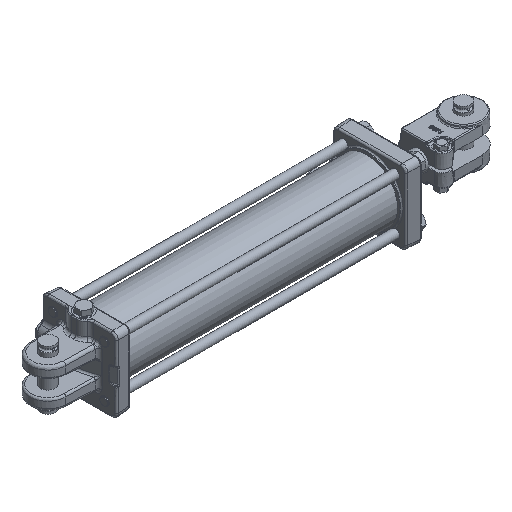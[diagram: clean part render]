
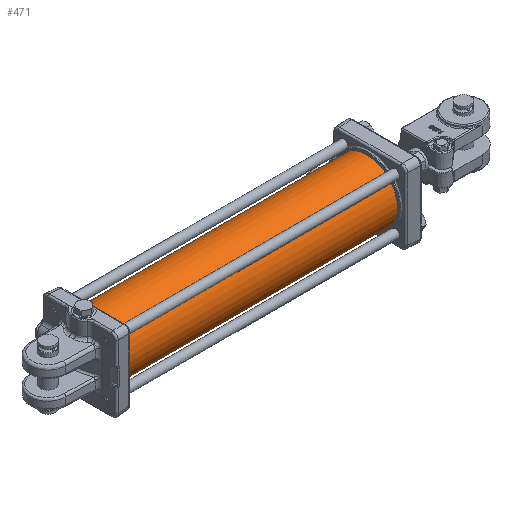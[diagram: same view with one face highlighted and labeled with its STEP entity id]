
A CAD part, isometric view. The second image highlights one B-rep face of the part: STEP entity #471.
In plain terms, the highlighted cylindrical face has radius 52.388 mm (diameter 104.775 mm), a full revolution.
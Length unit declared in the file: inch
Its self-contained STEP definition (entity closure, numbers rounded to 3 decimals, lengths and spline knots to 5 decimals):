
#210=CARTESIAN_POINT('',(-0.967,2.06178,0.0545));
#211=VERTEX_POINT('',#210);
#212=CARTESIAN_POINT('',(-0.967,2.06178,0.0545));
#213=CARTESIAN_POINT('',(-0.97384,2.06178,0.0545));
#214=CARTESIAN_POINT('',(-0.98114,2.06182,0.05313));
#215=CARTESIAN_POINT('',(-0.99457,2.06195,0.04757));
#216=CARTESIAN_POINT('',(-1.0007,2.06205,0.04338));
#217=CARTESIAN_POINT('',(-1.01038,2.06223,0.0337));
#218=CARTESIAN_POINT('',(-1.01457,2.06233,0.02757));
#219=CARTESIAN_POINT('',(-1.02013,2.06246,0.01414));
#220=CARTESIAN_POINT('',(-1.0215,2.0625,0.00684));
#221=CARTESIAN_POINT('',(-1.0215,2.0625,-0.00684));
#222=CARTESIAN_POINT('',(-1.02013,2.06246,-0.01414));
#223=CARTESIAN_POINT('',(-1.01457,2.06233,-0.02757));
#224=CARTESIAN_POINT('',(-1.01038,2.06223,-0.0337));
#225=CARTESIAN_POINT('',(-1.0007,2.06205,-0.04338));
#226=CARTESIAN_POINT('',(-0.99457,2.06195,-0.04757));
#227=CARTESIAN_POINT('',(-0.98114,2.06182,-0.05313));
#228=CARTESIAN_POINT('',(-0.97384,2.06178,-0.0545));
#229=CARTESIAN_POINT('',(-0.96016,2.06178,-0.0545));
#230=CARTESIAN_POINT('',(-0.95286,2.06182,-0.05313));
#231=CARTESIAN_POINT('',(-0.93943,2.06195,-0.04757));
#232=CARTESIAN_POINT('',(-0.9333,2.06205,-0.04338));
#233=CARTESIAN_POINT('',(-0.92362,2.06223,-0.0337));
#234=CARTESIAN_POINT('',(-0.91943,2.06233,-0.02757));
#235=CARTESIAN_POINT('',(-0.91387,2.06246,-0.01414));
#236=CARTESIAN_POINT('',(-0.9125,2.0625,-0.00684));
#237=CARTESIAN_POINT('',(-0.9125,2.0625,0.00684));
#238=CARTESIAN_POINT('',(-0.91387,2.06246,0.01414));
#239=CARTESIAN_POINT('',(-0.91943,2.06233,0.02757));
#240=CARTESIAN_POINT('',(-0.92362,2.06223,0.0337));
#241=CARTESIAN_POINT('',(-0.9333,2.06205,0.04338));
#242=CARTESIAN_POINT('',(-0.93943,2.06195,0.04757));
#243=CARTESIAN_POINT('',(-0.95286,2.06182,0.05313));
#244=CARTESIAN_POINT('',(-0.96016,2.06178,0.0545));
#245=CARTESIAN_POINT('',(-0.967,2.06178,0.0545));
#246=B_SPLINE_CURVE_WITH_KNOTS('',3,(#212,#213,#214,#215,#216,#217,#218,#219,#220,#221,#222,#223,#224,#225,#226,#227,#228,#229,#230,#231,#232,#233,#234,#235,#236,#237,#238,#239,#240,#241,#242,#243,#244,#245),.UNSPECIFIED.,.T.,.U.,(4,2,2,2,2,2,2,2,2,2,2,2,2,2,2,2,4),(0.0,0.05215,0.10429,0.15644,0.20859,0.26074,0.31288,0.36503,0.41718,0.46933,0.52147,0.57362,0.62577,0.67792,0.73006,0.78221,0.83436),.UNSPECIFIED.);
#247=EDGE_CURVE('',#211,#211,#246,.T.);
#298=CARTESIAN_POINT('',(-1.347,2.06227,0.031));
#299=VERTEX_POINT('',#298);
#300=CARTESIAN_POINT('',(-1.347,2.06227,0.031));
#301=CARTESIAN_POINT('',(-1.35089,2.06227,0.031));
#302=CARTESIAN_POINT('',(-1.35504,2.06228,0.03022));
#303=CARTESIAN_POINT('',(-1.36268,2.06232,0.02706));
#304=CARTESIAN_POINT('',(-1.36617,2.06235,0.02467));
#305=CARTESIAN_POINT('',(-1.37167,2.06241,0.01917));
#306=CARTESIAN_POINT('',(-1.37406,2.06244,0.01568));
#307=CARTESIAN_POINT('',(-1.37722,2.06249,0.00804));
#308=CARTESIAN_POINT('',(-1.378,2.0625,0.00389));
#309=CARTESIAN_POINT('',(-1.378,2.0625,-0.00389));
#310=CARTESIAN_POINT('',(-1.37722,2.06249,-0.00804));
#311=CARTESIAN_POINT('',(-1.37406,2.06244,-0.01568));
#312=CARTESIAN_POINT('',(-1.37167,2.06241,-0.01917));
#313=CARTESIAN_POINT('',(-1.36617,2.06235,-0.02467));
#314=CARTESIAN_POINT('',(-1.36268,2.06232,-0.02706));
#315=CARTESIAN_POINT('',(-1.35504,2.06228,-0.03022));
#316=CARTESIAN_POINT('',(-1.35089,2.06227,-0.031));
#317=CARTESIAN_POINT('',(-1.34311,2.06227,-0.031));
#318=CARTESIAN_POINT('',(-1.33896,2.06228,-0.03022));
#319=CARTESIAN_POINT('',(-1.33132,2.06232,-0.02706));
#320=CARTESIAN_POINT('',(-1.32783,2.06235,-0.02467));
#321=CARTESIAN_POINT('',(-1.32233,2.06241,-0.01917));
#322=CARTESIAN_POINT('',(-1.31994,2.06244,-0.01568));
#323=CARTESIAN_POINT('',(-1.31678,2.06249,-0.00804));
#324=CARTESIAN_POINT('',(-1.316,2.0625,-0.00389));
#325=CARTESIAN_POINT('',(-1.316,2.0625,0.00389));
#326=CARTESIAN_POINT('',(-1.31678,2.06249,0.00804));
#327=CARTESIAN_POINT('',(-1.31994,2.06244,0.01568));
#328=CARTESIAN_POINT('',(-1.32233,2.06241,0.01917));
#329=CARTESIAN_POINT('',(-1.32783,2.06235,0.02467));
#330=CARTESIAN_POINT('',(-1.33132,2.06232,0.02706));
#331=CARTESIAN_POINT('',(-1.33896,2.06228,0.03022));
#332=CARTESIAN_POINT('',(-1.34311,2.06227,0.031));
#333=CARTESIAN_POINT('',(-1.347,2.06227,0.031));
#334=B_SPLINE_CURVE_WITH_KNOTS('',3,(#300,#301,#302,#303,#304,#305,#306,#307,#308,#309,#310,#311,#312,#313,#314,#315,#316,#317,#318,#319,#320,#321,#322,#323,#324,#325,#326,#327,#328,#329,#330,#331,#332,#333),.UNSPECIFIED.,.T.,.U.,(4,2,2,2,2,2,2,2,2,2,2,2,2,2,2,2,4),(0.0,0.02966,0.05932,0.08898,0.11864,0.1483,0.17796,0.20763,0.23729,0.26695,0.29661,0.32627,0.35593,0.38559,0.41525,0.44491,0.47457),.UNSPECIFIED.);
#335=EDGE_CURVE('',#299,#299,#334,.T.);
#345=CARTESIAN_POINT('',(0.,2.0625,0.0));
#346=VERTEX_POINT('',#345);
#347=CARTESIAN_POINT('',(0.,0.0,0.0));
#348=DIRECTION('',(1.0,0.0,0.0));
#349=DIRECTION('',(0.0,1.0,0.0));
#350=AXIS2_PLACEMENT_3D('',#347,#348,#349);
#351=CIRCLE('',#350,2.0625);
#352=EDGE_CURVE('',#346,#346,#351,.T.);
#439=CARTESIAN_POINT('',(-18.468,2.0625,0.0));
#440=VERTEX_POINT('',#439);
#441=CARTESIAN_POINT('',(-18.468,0.0,0.0));
#442=DIRECTION('',(1.0,0.0,0.0));
#443=DIRECTION('',(0.0,1.0,0.0));
#444=AXIS2_PLACEMENT_3D('',#441,#442,#443);
#445=CIRCLE('',#444,2.0625);
#446=EDGE_CURVE('',#440,#440,#445,.T.);
#454=CARTESIAN_POINT('',(-9.234,0.0,0.0));
#455=DIRECTION('',(1.0,0.0,0.0));
#456=DIRECTION('',(0.0,1.0,0.0));
#457=AXIS2_PLACEMENT_3D('',#454,#455,#456);
#458=CYLINDRICAL_SURFACE('',#457,2.0625);
#459=ORIENTED_EDGE('',*,*,#352,.F.);
#460=EDGE_LOOP('',(#459));
#461=FACE_OUTER_BOUND('',#460,.T.);
#462=ORIENTED_EDGE('',*,*,#247,.T.);
#463=EDGE_LOOP('',(#462));
#464=FACE_BOUND('',#463,.T.);
#465=ORIENTED_EDGE('',*,*,#335,.T.);
#466=EDGE_LOOP('',(#465));
#467=FACE_BOUND('',#466,.T.);
#468=ORIENTED_EDGE('',*,*,#446,.T.);
#469=EDGE_LOOP('',(#468));
#470=FACE_BOUND('',#469,.T.);
#471=ADVANCED_FACE('',(#461,#464,#467,#470),#458,.T.);
